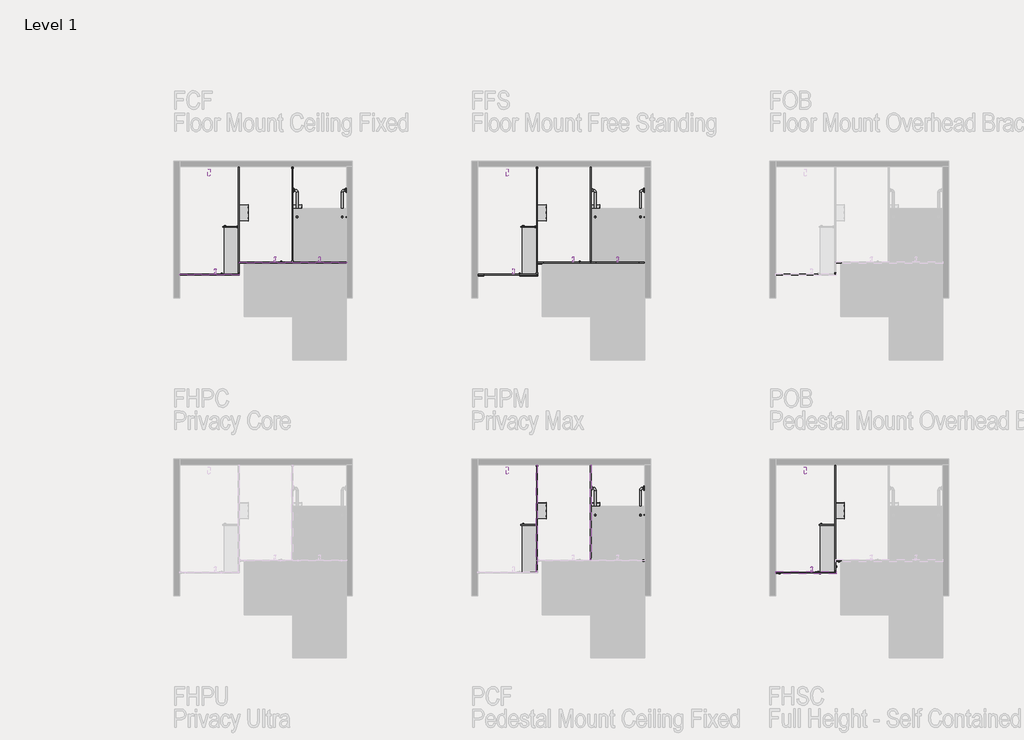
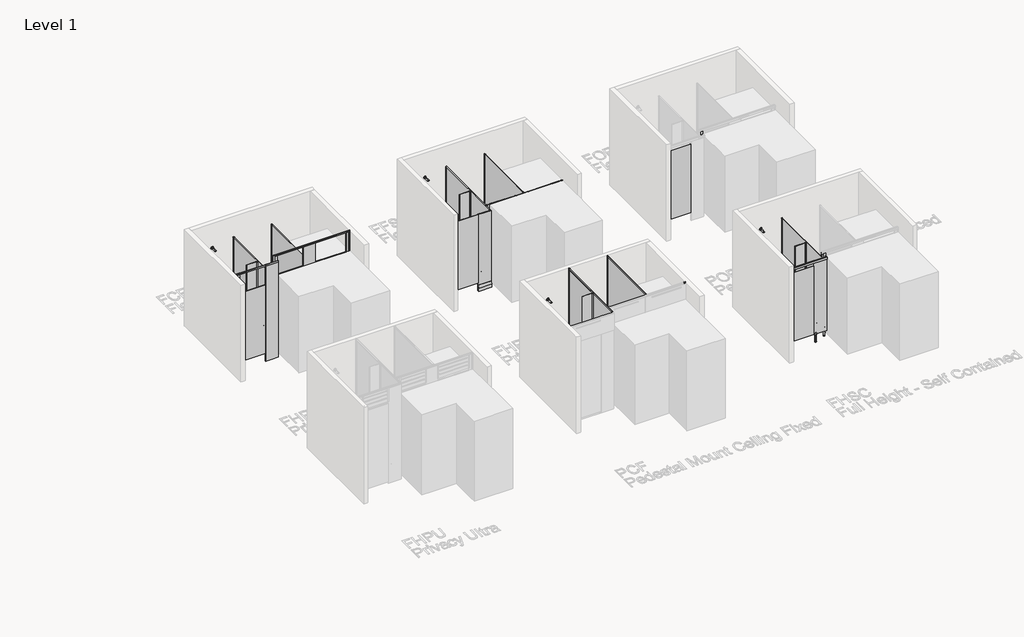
# One storey, part 3 of 21: 109 furniture elements, 13 proxies, 4 flow terminals.
"""IFC4 building model written with IfcOpenShell, lengths in millimetres."""

from ifc_helpers import new_model, si_unit, origin, place, context, project, spatial, transform, mapped, element, save
from components import grab_rail_angled_generic_variable_c761e824, grab_rail_angled_generic_variable_3e2c0b31, toilet_paper_dispenser_single_generic_jumbo_roll_standard_5525cc7b, shower_outlet_generic_cylinder_fixed_standard_5790de0d, furniture_50x50x3_ea_30474b0d, single_jumbo_roll_84fdac57, single_jumbo_roll_e7ba397d, standard_e9757195, standard_a09735d1, standard_17157e73, standard_56c17008, standard_8b35f988, standard_9f86a58c, standard_50133f41, standard_54add324, standard_539b4371, standard_19cf42aa, standard_accb4681, standard_8fe30837, standard_118d20a8, standard_3121d7ea, standard_f6b4b1de, standard_c2cb3ece, standard_90f6d6dc, standard_81af53f7, standard_0994168a, standard_caf870ac, standard_f7e84a1b, standard_d9afaeec, standard_fdf829a3, standard_31cafe8a, standard_3d746f33, standard_4055153e, standard_ba3eb68e, standard_246fb630, standard_a495ee6c, standard_6f46902e, standard_5e636450, standard_dc7732f7, standard_ce56a993, standard_7d118681, standard_d525bc8d, standard_c8a961e5, standard_a54649d3, standard_67804c96, standard_4ddd5521

model = new_model("IFC4")

# Units and contexts
model_context = context("Model", 3, world=origin())
ifc_project = project(units=[si_unit("LENGTHUNIT", "METRE", prefix="MILLI")], contexts=[model_context])

# Site, building, storey
site = spatial("IfcSite", under=ifc_project)
building = spatial("IfcBuilding", under=site)
storey = spatial("IfcBuildingStorey", under=building, Name="Level 1", Elevation=0.0)

# Proxies
placement = place(None, origin())
grab_rail_angled_generic_variable_shape = grab_rail_angled_generic_variable_c761e824(model_context)
element("IfcBuildingElementProxy", 1, Name="Grab Rail-Angled-Generic-Variable : Ambulant-32Ø 450+450@90°", ObjectType="Grab Rail-Angled-Generic-Variable : Ambulant-32Ø 450+450@90°", at=placement, inside=storey, context=model_context, shape_type="MappedRepresentation", body=[
    mapped(grab_rail_angled_generic_variable_shape, transform((-9235.416652, 9438.4657683, 784.0), x_axis=(0.0, 1.0, 0.0), y_axis=(0.0, 0.0, 1.0), z_axis=(1.0, 0.0, 0.0))),
])
element("IfcBuildingElementProxy", 2, Name="Grab Rail-Angled-Generic-Variable : Ambulant-32Ø 450+450@90°", ObjectType="Grab Rail-Angled-Generic-Variable : Ambulant-32Ø 450+450@90°", at=placement, inside=storey, context=model_context, shape_type="MappedRepresentation", body=[
    mapped(grab_rail_angled_generic_variable_shape, transform((-4235.416652, 9438.4657683, 784.0), x_axis=(0.0, 1.0, 0.0), y_axis=(0.0, 0.0, 1.0), z_axis=(1.0, 0.0, 0.0))),
])
element("IfcBuildingElementProxy", 3, Name="Grab Rail-Angled-Generic-Variable : Ambulant-32Ø 450+450@90°", ObjectType="Grab Rail-Angled-Generic-Variable : Ambulant-32Ø 450+450@90°", at=placement, inside=storey, context=model_context, shape_type="MappedRepresentation", body=[
    mapped(grab_rail_angled_generic_variable_shape, transform((-4235.416652, 4438.4657683, 784.0), x_axis=(0.0, 1.0, 0.0), y_axis=(0.0, 0.0, 1.0), z_axis=(1.0, 0.0, 0.0))),
])
grab_rail_angled_generic_variable_2_shape = grab_rail_angled_generic_variable_3e2c0b31(model_context)
element("IfcBuildingElementProxy", 4, Name="Grab Rail-Angled-Generic-Variable : Ambulant-32Ø 450+450@90°", ObjectType="Grab Rail-Angled-Generic-Variable : Ambulant-32Ø 450+450@90°", at=placement, inside=storey, context=model_context, shape_type="MappedRepresentation", body=[
    mapped(grab_rail_angled_generic_variable_2_shape, transform((-8335.416652, 9438.4657683, 784.0), x_axis=(0.0, 1.0, 0.0), y_axis=(0.0, 0.0, -1.0), z_axis=(-1.0, 0.0, 0.0))),
])
element("IfcBuildingElementProxy", 5, Name="Grab Rail-Angled-Generic-Variable : Ambulant-32Ø 450+450@90°", ObjectType="Grab Rail-Angled-Generic-Variable : Ambulant-32Ø 450+450@90°", at=placement, inside=storey, context=model_context, shape_type="MappedRepresentation", body=[
    mapped(grab_rail_angled_generic_variable_2_shape, transform((-3335.416652, 9438.4657683, 784.0), x_axis=(0.0, 1.0, 0.0), y_axis=(0.0, 0.0, -1.0), z_axis=(-1.0, 0.0, 0.0))),
])
element("IfcBuildingElementProxy", 6, Name="Grab Rail-Angled-Generic-Variable : Ambulant-32Ø 450+450@90°", ObjectType="Grab Rail-Angled-Generic-Variable : Ambulant-32Ø 450+450@90°", at=placement, inside=storey, context=model_context, shape_type="MappedRepresentation", body=[
    mapped(grab_rail_angled_generic_variable_2_shape, transform((-3335.416652, 4438.4657683, 784.0), x_axis=(0.0, 1.0, 0.0), y_axis=(0.0, 0.0, -1.0), z_axis=(-1.0, 0.0, 0.0))),
])
toilet_paper_dispenser_single_generic_jumbo_roll_standard_shape = toilet_paper_dispenser_single_generic_jumbo_roll_standard_5525cc7b(model_context)
element("IfcBuildingElementProxy", 7, Name="Toilet Paper Dispenser-Single-Generic-Jumbo Roll : Standard", ObjectType="Toilet Paper Dispenser-Single-Generic-Jumbo Roll : Standard", at=placement, inside=storey, context=model_context, shape_type="MappedRepresentation", body=[
    mapped(toilet_paper_dispenser_single_generic_jumbo_roll_standard_shape, transform((-135.416652, 4284.4657683, 561.5), x_axis=(0.0, 1.0000000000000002, 0.0), y_axis=(0.0, 0.0, 1.0), z_axis=(1.0000000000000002, 0.0, 0.0))),
])
element("IfcBuildingElementProxy", 8, Name="Toilet Paper Dispenser-Single-Generic-Jumbo Roll : Standard", ObjectType="Toilet Paper Dispenser-Single-Generic-Jumbo Roll : Standard", at=placement, inside=storey, context=model_context, shape_type="MappedRepresentation", body=[
    mapped(toilet_paper_dispenser_single_generic_jumbo_roll_standard_shape, transform((-10135.416652, 9284.4657683, 561.5), x_axis=(0.0, 1.0000000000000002, 0.0), y_axis=(0.0, 0.0, 1.0), z_axis=(1.0000000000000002, 0.0, 0.0))),
])
element("IfcBuildingElementProxy", 9, Name="Toilet Paper Dispenser-Single-Generic-Jumbo Roll : Standard", ObjectType="Toilet Paper Dispenser-Single-Generic-Jumbo Roll : Standard", at=placement, inside=storey, context=model_context, shape_type="MappedRepresentation", body=[
    mapped(toilet_paper_dispenser_single_generic_jumbo_roll_standard_shape, transform((-9235.416652, 9284.4657683, 561.5), x_axis=(0.0, 1.0000000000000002, 0.0), y_axis=(0.0, 0.0, 1.0), z_axis=(1.0000000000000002, 0.0, 0.0))),
])
element("IfcBuildingElementProxy", 10, Name="Toilet Paper Dispenser-Single-Generic-Jumbo Roll : Standard", ObjectType="Toilet Paper Dispenser-Single-Generic-Jumbo Roll : Standard", at=placement, inside=storey, context=model_context, shape_type="MappedRepresentation", body=[
    mapped(toilet_paper_dispenser_single_generic_jumbo_roll_standard_shape, transform((-5135.416652, 9284.4657683, 561.5), x_axis=(0.0, 1.0000000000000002, 0.0), y_axis=(0.0, 0.0, 1.0), z_axis=(1.0000000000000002, 0.0, 0.0))),
])
element("IfcBuildingElementProxy", 11, Name="Toilet Paper Dispenser-Single-Generic-Jumbo Roll : Standard", ObjectType="Toilet Paper Dispenser-Single-Generic-Jumbo Roll : Standard", at=placement, inside=storey, context=model_context, shape_type="MappedRepresentation", body=[
    mapped(toilet_paper_dispenser_single_generic_jumbo_roll_standard_shape, transform((-4235.416652, 9284.4657683, 561.5), x_axis=(0.0, 1.0000000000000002, 0.0), y_axis=(0.0, 0.0, 1.0), z_axis=(1.0000000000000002, 0.0, 0.0))),
])
element("IfcBuildingElementProxy", 12, Name="Toilet Paper Dispenser-Single-Generic-Jumbo Roll : Standard", ObjectType="Toilet Paper Dispenser-Single-Generic-Jumbo Roll : Standard", at=placement, inside=storey, context=model_context, shape_type="MappedRepresentation", body=[
    mapped(toilet_paper_dispenser_single_generic_jumbo_roll_standard_shape, transform((-5135.416652, 4284.4657683, 561.5), x_axis=(0.0, 1.0000000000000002, 0.0), y_axis=(0.0, 0.0, 1.0), z_axis=(1.0000000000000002, 0.0, 0.0))),
])
element("IfcBuildingElementProxy", 13, Name="Toilet Paper Dispenser-Single-Generic-Jumbo Roll : Standard", ObjectType="Toilet Paper Dispenser-Single-Generic-Jumbo Roll : Standard", at=placement, inside=storey, context=model_context, shape_type="MappedRepresentation", body=[
    mapped(toilet_paper_dispenser_single_generic_jumbo_roll_standard_shape, transform((-4235.416652, 4284.4657683, 561.5), x_axis=(0.0, 1.0000000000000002, 0.0), y_axis=(0.0, 0.0, 1.0), z_axis=(1.0000000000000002, 0.0, 0.0))),
])

# Flow terminals
shower_outlet_generic_cylinder_fixed_standard_shape = shower_outlet_generic_cylinder_fixed_standard_5790de0d(model_context)
element("IfcFlowTerminal", 14, ObjectType="Shower-Outlet-Generic-Cylinder-Fixed : Standard", at=placement, inside=storey, context=model_context, shape_type="MappedRepresentation", body=[
    mapped(shower_outlet_generic_cylinder_fixed_standard_shape, transform((-10641.916652, 10054.4657683, 1800.0), x_axis=(1.0, 0.0, 0.0), y_axis=(0.0, 0.0, 1.0), z_axis=(0.0, -1.0, 0.0))),
])
element("IfcFlowTerminal", 15, ObjectType="Shower-Outlet-Generic-Cylinder-Fixed : Standard", at=placement, inside=storey, context=model_context, shape_type="MappedRepresentation", body=[
    mapped(shower_outlet_generic_cylinder_fixed_standard_shape, transform((-5641.916652, 10054.4657683, 1800.0), x_axis=(1.0, 0.0, 0.0), y_axis=(0.0, 0.0, 1.0), z_axis=(0.0, -1.0, 0.0))),
])
element("IfcFlowTerminal", 16, ObjectType="Shower-Outlet-Generic-Cylinder-Fixed : Standard", at=placement, inside=storey, context=model_context, shape_type="MappedRepresentation", body=[
    mapped(shower_outlet_generic_cylinder_fixed_standard_shape, transform((-5641.916652, 5054.4657683, 1800.0), x_axis=(1.0, 0.0, 0.0), y_axis=(0.0, 0.0, 1.0), z_axis=(0.0, -1.0, 0.0))),
])
element("IfcFlowTerminal", 17, ObjectType="Shower-Outlet-Generic-Cylinder-Fixed : Standard", at=placement, inside=storey, context=model_context, shape_type="MappedRepresentation", body=[
    mapped(shower_outlet_generic_cylinder_fixed_standard_shape, transform((-641.916652, 5054.4657683, 1800.0), x_axis=(1.0, 0.0, 0.0), y_axis=(0.0, 0.0, 1.0), z_axis=(0.0, -1.0, 0.0))),
])

# Furniture
furniture_50x50x3_ea_shape = furniture_50x50x3_ea_30474b0d(model_context)
element("IfcFurniture", 18, ObjectType="X_Partition-Angle-Duracube-Shower Seat : 50x50x3 EA", at=placement, inside=storey, context=model_context, shape_type="MappedRepresentation", body=[
    mapped(furniture_50x50x3_ea_shape, transform((-10148.416652, 8991.4657683, 462.0), x_axis=(0.0, -1.0, 0.0), y_axis=(0.0, 0.0, 1.0), z_axis=(-1.0, 0.0, 0.0))),
])
element("IfcFurniture", 19, ObjectType="X_Partition-Angle-Duracube-Shower Seat : 50x50x3 EA", at=placement, inside=storey, context=model_context, shape_type="MappedRepresentation", body=[
    mapped(furniture_50x50x3_ea_shape, transform((-10148.416652, 8304.4657683, 462.0), x_axis=(0.0, -1.0, 0.0), y_axis=(0.0, 0.0, 1.0), z_axis=(-1.0, 0.0, 0.0))),
])
element("IfcFurniture", 20, ObjectType="X_Partition-Angle-Duracube-Shower Seat : 50x50x3 EA", at=placement, inside=storey, context=model_context, shape_type="MappedRepresentation", body=[
    mapped(furniture_50x50x3_ea_shape, transform((-5148.416652, 8991.4657683, 462.0), x_axis=(0.0, -1.0, 0.0), y_axis=(0.0, 0.0, 1.0), z_axis=(-1.0, 0.0, 0.0))),
])
element("IfcFurniture", 21, ObjectType="X_Partition-Angle-Duracube-Shower Seat : 50x50x3 EA", at=placement, inside=storey, context=model_context, shape_type="MappedRepresentation", body=[
    mapped(furniture_50x50x3_ea_shape, transform((-5148.416652, 8304.4657683, 462.0), x_axis=(0.0, -1.0, 0.0), y_axis=(0.0, 0.0, 1.0), z_axis=(-1.0, 0.0, 0.0))),
])
element("IfcFurniture", 22, ObjectType="X_Partition-Angle-Duracube-Shower Seat : 50x50x3 EA", at=placement, inside=storey, context=model_context, shape_type="MappedRepresentation", body=[
    mapped(furniture_50x50x3_ea_shape, transform((-148.416652, 3991.4657683, 462.0), x_axis=(0.0, -1.0, 0.0), y_axis=(0.0, 0.0, 1.0), z_axis=(-1.0, 0.0, 0.0))),
])
element("IfcFurniture", 23, ObjectType="X_Partition-Angle-Duracube-Shower Seat : 50x50x3 EA", at=placement, inside=storey, context=model_context, shape_type="MappedRepresentation", body=[
    mapped(furniture_50x50x3_ea_shape, transform((-148.416652, 3304.4657683, 462.0), x_axis=(0.0, -1.0, 0.0), y_axis=(0.0, 0.0, 1.0), z_axis=(-1.0, 0.0, 0.0))),
])
element("IfcFurniture", 24, ObjectType="X_Partition-Angle-Duracube-Shower Seat : 50x50x3 EA", at=placement, inside=storey, context=model_context, shape_type="MappedRepresentation", body=[
    mapped(furniture_50x50x3_ea_shape, transform((-10148.416652, 8647.9657683, 462.0), x_axis=(0.0, -1.0, 0.0), y_axis=(0.0, 0.0, 1.0), z_axis=(-1.0, 0.0, 0.0))),
])
element("IfcFurniture", 25, ObjectType="X_Partition-Angle-Duracube-Shower Seat : 50x50x3 EA", at=placement, inside=storey, context=model_context, shape_type="MappedRepresentation", body=[
    mapped(furniture_50x50x3_ea_shape, transform((-10363.416652, 9041.4657683, 462.0), x_axis=(1.0, 0.0, 0.0), y_axis=(0.0, 0.0, 1.0), z_axis=(0.0, -1.0, 0.0))),
])
element("IfcFurniture", 26, ObjectType="X_Partition-Angle-Duracube-Shower Seat : 50x50x3 EA", at=placement, inside=storey, context=model_context, shape_type="MappedRepresentation", body=[
    mapped(furniture_50x50x3_ea_shape, transform((-10363.416652, 8279.4657683, 487.0), x_axis=(1.0, 0.0, 0.0), y_axis=(0.0, -1.0, 0.0), z_axis=(0.0, 0.0, -1.0))),
])
element("IfcFurniture", 27, ObjectType="X_Partition-Angle-Duracube-Shower Seat : 50x50x3 EA", at=placement, inside=storey, context=model_context, shape_type="MappedRepresentation", body=[
    mapped(furniture_50x50x3_ea_shape, transform((-5148.416652, 8647.9657683, 462.0), x_axis=(0.0, -1.0, 0.0), y_axis=(0.0, 0.0, 1.0), z_axis=(-1.0, 0.0, 0.0))),
])
element("IfcFurniture", 28, ObjectType="X_Partition-Angle-Duracube-Shower Seat : 50x50x3 EA", at=placement, inside=storey, context=model_context, shape_type="MappedRepresentation", body=[
    mapped(furniture_50x50x3_ea_shape, transform((-5363.416652, 9041.4657683, 462.0), x_axis=(1.0, 0.0, 0.0), y_axis=(0.0, 0.0, 1.0), z_axis=(0.0, -1.0, 0.0))),
])
element("IfcFurniture", 29, ObjectType="X_Partition-Angle-Duracube-Shower Seat : 50x50x3 EA", at=placement, inside=storey, context=model_context, shape_type="MappedRepresentation", body=[
    mapped(furniture_50x50x3_ea_shape, transform((-5363.416652, 8279.4657683, 487.0), x_axis=(1.0, 0.0, 0.0), y_axis=(0.0, -1.0, 0.0), z_axis=(0.0, 0.0, -1.0))),
])
element("IfcFurniture", 30, ObjectType="X_Partition-Angle-Duracube-Shower Seat : 50x50x3 EA", at=placement, inside=storey, context=model_context, shape_type="MappedRepresentation", body=[
    mapped(furniture_50x50x3_ea_shape, transform((-5363.416652, 4041.4657683, 462.0), x_axis=(1.0, 0.0, 0.0), y_axis=(0.0, 0.0, 1.0), z_axis=(0.0, -1.0, 0.0))),
])
element("IfcFurniture", 31, ObjectType="X_Partition-Angle-Duracube-Shower Seat : 50x50x3 EA", at=placement, inside=storey, context=model_context, shape_type="MappedRepresentation", body=[
    mapped(furniture_50x50x3_ea_shape, transform((-148.416652, 3647.9657683, 462.0), x_axis=(0.0, -1.0, 0.0), y_axis=(0.0, 0.0, 1.0), z_axis=(-1.0, 0.0, 0.0))),
])
element("IfcFurniture", 32, ObjectType="X_Partition-Angle-Duracube-Shower Seat : 50x50x3 EA", at=placement, inside=storey, context=model_context, shape_type="MappedRepresentation", body=[
    mapped(furniture_50x50x3_ea_shape, transform((-363.416652, 4041.4657683, 462.0), x_axis=(1.0, 0.0, 0.0), y_axis=(0.0, 0.0, 1.0), z_axis=(0.0, -1.0, 0.0))),
])
element("IfcFurniture", 33, ObjectType="X_Partition-Angle-Duracube-Shower Seat : 50x50x3 EA", at=placement, inside=storey, context=model_context, shape_type="MappedRepresentation", body=[
    mapped(furniture_50x50x3_ea_shape, transform((-363.416652, 3279.4657683, 487.0), x_axis=(1.0, 0.0, 0.0), y_axis=(0.0, -1.0, 0.0), z_axis=(0.0, 0.0, -1.0))),
])
single_jumbo_roll_shape = single_jumbo_roll_84fdac57(model_context)
element("IfcFurniture", 34, ObjectType="X_Partition-Compact Laminate-Duracube-Rectangular : Single Jumbo Roll", at=placement, inside=storey, context=model_context, shape_type="MappedRepresentation", body=[
    mapped(single_jumbo_roll_shape, transform((-9248.416652, 9209.7654418, 0.0), x_axis=(0.0, 1.0000000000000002, 0.0), y_axis=(-1.0000000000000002, 0.0, 0.0), z_axis=(0.0, 0.0, 1.0))),
])
element("IfcFurniture", 35, ObjectType="X_Partition-Compact Laminate-Duracube-Rectangular : Single Jumbo Roll", at=placement, inside=storey, context=model_context, shape_type="MappedRepresentation", body=[
    mapped(single_jumbo_roll_shape, transform((-4248.416652, 9209.7654418, 0.0), x_axis=(0.0, 1.0000000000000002, 0.0), y_axis=(-1.0000000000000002, 0.0, 0.0), z_axis=(0.0, 0.0, 1.0))),
])
single_jumbo_roll_2_shape = single_jumbo_roll_e7ba397d(model_context)
element("IfcFurniture", 36, ObjectType="X_Partition-Compact Laminate-Duracube-Rectangular : Single Jumbo Roll", at=placement, inside=storey, context=model_context, shape_type="MappedRepresentation", body=[
    mapped(single_jumbo_roll_2_shape, transform((-4248.416652, 4209.7654418, 0.0), x_axis=(0.0, 1.0000000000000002, 0.0), y_axis=(-1.0000000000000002, 0.0, 0.0), z_axis=(0.0, 0.0, 1.0))),
])
standard_shape = standard_e9757195(model_context)
element("IfcFurniture", 37, ObjectType="X_Partition-Channel-Duracube-Skirting : Standard", at=placement, inside=storey, context=model_context, shape_type="MappedRepresentation", body=[
    mapped(standard_shape, transform((-5131.6169784, 8457.9657683, 0.0), x_axis=(1.0, 0.0, 0.0), y_axis=(0.0, 1.0, 0.0), z_axis=(0.0, 0.0, 1.0))),
])
element("IfcFurniture", 38, ObjectType="X_Partition-Channel-Duracube-Skirting : Standard", at=placement, inside=storey, context=model_context, shape_type="MappedRepresentation", body=[
    mapped(standard_shape, transform((-6131.6169784, 8257.9657683, 0.0), x_axis=(1.0, 0.0, 0.0), y_axis=(0.0, 1.0, 0.0), z_axis=(0.0, 0.0, 1.0))),
])
standard_2_shape = standard_a09735d1(model_context)
element("IfcFurniture", 39, ObjectType="X_Partition-Compact Laminate-Duracube-Shower Seat & Division : Standard", at=placement, inside=storey, context=model_context, shape_type="MappedRepresentation", body=[
    mapped(standard_2_shape, transform((-5327.1169784, 4054.4657683, 0.0), x_axis=(1.0, 0.0, 0.0), y_axis=(0.0, 1.0, 0.0), z_axis=(0.0, 0.0, 1.0))),
])
standard_3_shape = standard_17157e73(model_context)
element("IfcFurniture", 40, ObjectType="X_Partition-Compact Laminate-Duracube-Rectangular : Standard", at=placement, inside=storey, context=model_context, shape_type="MappedRepresentation", body=[
    mapped(standard_3_shape, transform((-10148.416652, 9109.7654418, 0.0), x_axis=(0.0, 1.0000000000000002, 0.0), y_axis=(-1.0000000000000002, 0.0, 0.0), z_axis=(0.0, 0.0, 1.0))),
])
standard_4_shape = standard_56c17008(model_context)
element("IfcFurniture", 41, ObjectType="X_Partition-Compact Laminate-Duracube-Rectangular : Standard", at=placement, inside=storey, context=model_context, shape_type="MappedRepresentation", body=[
    mapped(standard_4_shape, transform((-5129.6169784, 8454.4657683, 0.0), x_axis=(1.0, 0.0, 0.0), y_axis=(0.0, 1.0, 0.0), z_axis=(0.0, 0.0, 1.0))),
])
element("IfcFurniture", 42, ObjectType="X_Partition-Compact Laminate-Duracube-Rectangular : Standard", at=placement, inside=storey, context=model_context, shape_type="MappedRepresentation", body=[
    mapped(standard_4_shape, transform((-6129.6169784, 8254.4657683, 0.0), x_axis=(1.0, 0.0, 0.0), y_axis=(0.0, 1.0, 0.0), z_axis=(0.0, 0.0, 1.0))),
])
element("IfcFurniture", 43, ObjectType="X_Partition-Compact Laminate-Duracube-Rectangular : Standard", at=placement, inside=storey, context=model_context, shape_type="MappedRepresentation", body=[
    mapped(standard_3_shape, transform((-5148.416652, 9109.7654418, 0.0), x_axis=(0.0, 1.0000000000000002, 0.0), y_axis=(-1.0000000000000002, 0.0, 0.0), z_axis=(0.0, 0.0, 1.0))),
])
standard_5_shape = standard_8b35f988(model_context)
element("IfcFurniture", 44, ObjectType="X_Partition-Compact Laminate-Duracube-Rectangular : Standard", at=placement, inside=storey, context=model_context, shape_type="MappedRepresentation", body=[
    mapped(standard_5_shape, transform((-5148.416652, 4109.7654418, 0.0), x_axis=(0.0, 1.0000000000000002, 0.0), y_axis=(-1.0000000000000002, 0.0, 0.0), z_axis=(0.0, 0.0, 1.0))),
])
element("IfcFurniture", 45, ObjectType="X_Partition-Compact Laminate-Duracube-Rectangular : Standard", at=placement, inside=storey, context=model_context, shape_type="MappedRepresentation", body=[
    mapped(standard_3_shape, transform((-148.416652, 4109.7654418, 0.0), x_axis=(0.0, 1.0000000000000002, 0.0), y_axis=(-1.0000000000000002, 0.0, 0.0), z_axis=(0.0, 0.0, 1.0))),
])
standard_6_shape = standard_9f86a58c(model_context)
element("IfcFurniture", 46, ObjectType="X_Partition-Compact Laminate-Duracube-Rectangular : Standard", at=placement, inside=storey, context=model_context, shape_type="MappedRepresentation", body=[
    mapped(standard_6_shape, transform((-10129.6169784, 8454.4657683, 0.0), x_axis=(1.0, 0.0, 0.0), y_axis=(0.0, 1.0, 0.0), z_axis=(0.0, 0.0, 1.0))),
])
element("IfcFurniture", 47, ObjectType="X_Partition-Compact Laminate-Duracube-Rectangular : Standard", at=placement, inside=storey, context=model_context, shape_type="MappedRepresentation", body=[
    mapped(standard_6_shape, transform((-11129.6169784, 8254.4657683, 0.0), x_axis=(1.0, 0.0, 0.0), y_axis=(0.0, 1.0, 0.0), z_axis=(0.0, 0.0, 1.0))),
])
standard_7_shape = standard_50133f41(model_context)
element("IfcFurniture", 48, ObjectType="X_Partition-Compact Laminate-Duracube-Rectangular : Standard", at=placement, inside=storey, context=model_context, shape_type="MappedRepresentation", body=[
    mapped(standard_7_shape, transform((-10327.1169784, 8254.4657683, 0.0), x_axis=(1.0, 0.0, 0.0), y_axis=(0.0, 1.0, 0.0), z_axis=(0.0, 0.0, 1.0))),
])
standard_8_shape = standard_54add324(model_context)
element("IfcFurniture", 49, ObjectType="X_Partition-Compact Laminate-Duracube-Rectangular : Standard", at=placement, inside=storey, context=model_context, shape_type="MappedRepresentation", body=[
    mapped(standard_8_shape, transform((-8425.6169784, 8454.4657683, 0.0), x_axis=(1.0, 0.0, 0.0), y_axis=(0.0, 1.0, 0.0), z_axis=(0.0, 0.0, 1.0))),
])
standard_9_shape = standard_539b4371(model_context)
element("IfcFurniture", 50, ObjectType="X_Partition-Compact Laminate-Duracube-Rectangular : Standard", at=placement, inside=storey, context=model_context, shape_type="MappedRepresentation", body=[
    mapped(standard_9_shape, transform((-9337.6169784, 8454.4657683, 0.0), x_axis=(1.0, 0.0, 0.0), y_axis=(0.0, 1.0, 0.0), z_axis=(0.0, 0.0, 1.0))),
])
standard_10_shape = standard_19cf42aa(model_context)
element("IfcFurniture", 51, ObjectType="X_Partition-Channel-Duracube-End : Standard", at=placement, inside=storey, context=model_context, shape_type="MappedRepresentation", body=[
    mapped(standard_10_shape, transform((-3305.7163255, 8454.4657683, 0.0), x_axis=(-1.0000000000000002, 0.0, 0.0), y_axis=(0.0, -1.0000000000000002, 0.0), z_axis=(0.0, 0.0, 1.0))),
])
standard_11_shape = standard_accb4681(model_context)
element("IfcFurniture", 52, ObjectType="X_Partition-Compact Laminate-Duracube-Rectangular : Standard", at=placement, inside=storey, context=model_context, shape_type="MappedRepresentation", body=[
    mapped(standard_11_shape, transform((-3425.6169784, 8454.4657683, 0.0), x_axis=(1.0, 0.0, 0.0), y_axis=(0.0, 1.0, 0.0), z_axis=(0.0, 0.0, 1.0))),
])
standard_12_shape = standard_8fe30837(model_context)
element("IfcFurniture", 53, ObjectType="X_Partition-Channel-Duracube-Skirting : Standard", at=placement, inside=storey, context=model_context, shape_type="MappedRepresentation", body=[
    mapped(standard_12_shape, transform((-3423.6169784, 8457.9657683, 0.0), x_axis=(1.0, 0.0, 0.0), y_axis=(0.0, 1.0, 0.0), z_axis=(0.0, 0.0, 1.0))),
])
standard_13_shape = standard_118d20a8(model_context)
element("IfcFurniture", 54, ObjectType="X_Partition-Compact Laminate-Duracube-Rectangular : Standard", at=placement, inside=storey, context=model_context, shape_type="MappedRepresentation", body=[
    mapped(standard_13_shape, transform((-4337.6169784, 8454.4657683, 0.0), x_axis=(1.0, 0.0, 0.0), y_axis=(0.0, 1.0, 0.0), z_axis=(0.0, 0.0, 1.0))),
])
standard_14_shape = standard_3121d7ea(model_context)
element("IfcFurniture", 55, ObjectType="X_Partition-Channel-Duracube-Skirting : Standard", at=placement, inside=storey, context=model_context, shape_type="MappedRepresentation", body=[
    mapped(standard_14_shape, transform((-4337.6169784, 8457.9657683, 0.0), x_axis=(1.0, 0.0, 0.0), y_axis=(0.0, 1.0, 0.0), z_axis=(0.0, 0.0, 1.0))),
])
standard_15_shape = standard_f6b4b1de(model_context)
element("IfcFurniture", 56, ObjectType="X_Partition-Compact Laminate-Duracube-Rectangular : Standard", at=placement, inside=storey, context=model_context, shape_type="MappedRepresentation", body=[
    mapped(standard_15_shape, transform((-5327.1169784, 8254.4657683, 0.0), x_axis=(1.0, 0.0, 0.0), y_axis=(0.0, 1.0, 0.0), z_axis=(0.0, 0.0, 1.0))),
])
standard_16_shape = standard_c2cb3ece(model_context)
element("IfcFurniture", 57, ObjectType="X_Partition-Channel-Duracube-Skirting : Standard", at=placement, inside=storey, context=model_context, shape_type="MappedRepresentation", body=[
    mapped(standard_16_shape, transform((-5325.1169784, 8257.9657683, 0.0), x_axis=(1.0, 0.0, 0.0), y_axis=(0.0, 1.0, 0.0), z_axis=(0.0, 0.0, 1.0))),
])
standard_17_shape = standard_90f6d6dc(model_context)
element("IfcFurniture", 58, ObjectType="X_Partition-Channel-Duracube-End : Standard", at=placement, inside=storey, context=model_context, shape_type="MappedRepresentation", body=[
    mapped(standard_17_shape, transform((-1165.1169784, 8254.4657683, 0.0), x_axis=(1.0000000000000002, 0.0, 0.0), y_axis=(0.0, 1.0000000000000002, 0.0), z_axis=(0.0, 0.0, 1.0))),
])
standard_18_shape = standard_81af53f7(model_context)
element("IfcFurniture", 59, ObjectType="X_Partition-Compact Laminate-Duracube-Rectangular : Standard", at=placement, inside=storey, context=model_context, shape_type="MappedRepresentation", body=[
    mapped(standard_18_shape, transform((-129.6169784, 8454.4657683, 0.0), x_axis=(1.0, 0.0, 0.0), y_axis=(0.0, 1.0, 0.0), z_axis=(0.0, 0.0, 1.0))),
])
element("IfcFurniture", 60, ObjectType="X_Partition-Compact Laminate-Duracube-Rectangular : Standard", at=placement, inside=storey, context=model_context, shape_type="MappedRepresentation", body=[
    mapped(standard_18_shape, transform((-1129.6169784, 8254.4657683, 0.0), x_axis=(1.0, 0.0, 0.0), y_axis=(0.0, 1.0, 0.0), z_axis=(0.0, 0.0, 1.0))),
])
standard_19_shape = standard_0994168a(model_context)
element("IfcFurniture", 61, ObjectType="X_Partition-Compact Laminate-Duracube-Rectangular : Standard", at=placement, inside=storey, context=model_context, shape_type="MappedRepresentation", body=[
    mapped(standard_19_shape, transform((-327.1169784, 3254.4657683, 0.0), x_axis=(1.0, 0.0, 0.0), y_axis=(0.0, 1.0, 0.0), z_axis=(0.0, 0.0, 1.0))),
])
standard_20_shape = standard_caf870ac(model_context)
element("IfcFurniture", 62, ObjectType="X_Partition-Channel-Duracube-End : Standard", at=placement, inside=storey, context=model_context, shape_type="MappedRepresentation", body=[
    mapped(standard_20_shape, transform((-1165.1169784, 3254.4657683, 0.0), x_axis=(1.0000000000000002, 0.0, 0.0), y_axis=(0.0, 1.0000000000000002, 0.0), z_axis=(0.0, 0.0, 1.0))),
])
element("IfcFurniture", 63, ObjectType="X_Partition-Channel-Duracube-End : Standard", at=placement, inside=storey, context=model_context, shape_type="MappedRepresentation", body=[
    mapped(standard_20_shape, transform((-165.1169784, 3454.4657683, 0.0), x_axis=(1.0000000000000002, 0.0, 0.0), y_axis=(0.0, 1.0000000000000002, 0.0), z_axis=(0.0, 0.0, 1.0))),
])
standard_21_shape = standard_f7e84a1b(model_context)
element("IfcFurniture", 64, ObjectType="X_Partition-Compact Laminate-Duracube-Rectangular : Standard", at=placement, inside=storey, context=model_context, shape_type="MappedRepresentation", body=[
    mapped(standard_21_shape, transform((-129.6169784, 3454.4657683, 0.0), x_axis=(1.0, 0.0, 0.0), y_axis=(0.0, 1.0, 0.0), z_axis=(0.0, 0.0, 1.0))),
])
element("IfcFurniture", 65, ObjectType="X_Partition-Compact Laminate-Duracube-Rectangular : Standard", at=placement, inside=storey, context=model_context, shape_type="MappedRepresentation", body=[
    mapped(standard_21_shape, transform((-1129.6169784, 3254.4657683, 0.0), x_axis=(1.0, 0.0, 0.0), y_axis=(0.0, 1.0, 0.0), z_axis=(0.0, 0.0, 1.0))),
])
standard_22_shape = standard_d9afaeec(model_context)
element("IfcFurniture", 66, ObjectType="X_Partition-Compact Laminate-Duracube-Door : Standard", at=placement, inside=storey, context=model_context, shape_type="MappedRepresentation", body=[
    mapped(standard_22_shape, transform((-9780.1169784, 8454.4657683, 0.0), x_axis=(1.0, 0.0, 0.0), y_axis=(0.0, 1.0, 0.0), z_axis=(0.0, 0.0, 1.0))),
])
element("IfcFurniture", 67, ObjectType="X_Partition-Compact Laminate-Duracube-Door : Standard", at=placement, inside=storey, context=model_context, shape_type="MappedRepresentation", body=[
    mapped(standard_22_shape, transform((-10780.1169784, 8254.4657683, 0.0), x_axis=(1.0, 0.0, 0.0), y_axis=(0.0, 1.0, 0.0), z_axis=(0.0, 0.0, 1.0))),
])
standard_23_shape = standard_fdf829a3(model_context)
element("IfcFurniture", 68, ObjectType="X_Partition-Compact Laminate-Duracube-Door : Standard", at=placement, inside=storey, context=model_context, shape_type="MappedRepresentation", body=[
    mapped(standard_23_shape, transform((-8832.6169784, 8454.4657683, 0.0), x_axis=(1.0, 0.0, 0.0), y_axis=(0.0, 1.0, 0.0), z_axis=(0.0, 0.0, 1.0))),
])
element("IfcFurniture", 69, ObjectType="X_Partition-Compact Laminate-Duracube-Door : Standard", at=placement, inside=storey, context=model_context, shape_type="MappedRepresentation", body=[
    mapped(standard_22_shape, transform((-4780.1169784, 8454.4657683, 0.0), x_axis=(1.0, 0.0, 0.0), y_axis=(0.0, 1.0, 0.0), z_axis=(0.0, 0.0, 1.0))),
])
element("IfcFurniture", 70, ObjectType="X_Partition-Compact Laminate-Duracube-Door : Standard", at=placement, inside=storey, context=model_context, shape_type="MappedRepresentation", body=[
    mapped(standard_22_shape, transform((-5780.1169784, 8254.4657683, 0.0), x_axis=(1.0, 0.0, 0.0), y_axis=(0.0, 1.0, 0.0), z_axis=(0.0, 0.0, 1.0))),
])
element("IfcFurniture", 71, ObjectType="X_Partition-Compact Laminate-Duracube-Door : Standard", at=placement, inside=storey, context=model_context, shape_type="MappedRepresentation", body=[
    mapped(standard_23_shape, transform((-3832.6169784, 8454.4657683, 0.0), x_axis=(1.0, 0.0, 0.0), y_axis=(0.0, 1.0, 0.0), z_axis=(0.0, 0.0, 1.0))),
])
element("IfcFurniture", 72, ObjectType="X_Partition-Compact Laminate-Duracube-Door : Standard", at=placement, inside=storey, context=model_context, shape_type="MappedRepresentation", body=[
    mapped(standard_22_shape, transform((-780.1169784, 8254.4657683, 0.0), x_axis=(1.0, 0.0, 0.0), y_axis=(0.0, 1.0, 0.0), z_axis=(0.0, 0.0, 1.0))),
])
element("IfcFurniture", 73, ObjectType="X_Partition-Compact Laminate-Duracube-Door : Standard", at=placement, inside=storey, context=model_context, shape_type="MappedRepresentation", body=[
    mapped(standard_22_shape, transform((-780.1169784, 3254.4657683, 0.0), x_axis=(1.0, 0.0, 0.0), y_axis=(0.0, 1.0, 0.0), z_axis=(0.0, 0.0, 1.0))),
])
standard_24_shape = standard_31cafe8a(model_context)
element("IfcFurniture", 74, ObjectType="X_Partition-Robe Hook-Duracube-Door Stop : Standard", at=placement, inside=storey, context=model_context, shape_type="MappedRepresentation", body=[
    mapped(standard_24_shape, transform((-9535.416652, 8454.4657683, 1700.0), x_axis=(-1.0, 0.0, 0.0), y_axis=(0.0, 0.0, 1.0), z_axis=(0.0, 1.0, 0.0))),
])
element("IfcFurniture", 75, ObjectType="X_Partition-Robe Hook-Duracube-Door Stop : Standard", at=placement, inside=storey, context=model_context, shape_type="MappedRepresentation", body=[
    mapped(standard_24_shape, transform((-10535.416652, 8254.4657683, 1700.0), x_axis=(-1.0, 0.0, 0.0), y_axis=(0.0, 0.0, 1.0), z_axis=(0.0, 1.0, 0.0))),
])
element("IfcFurniture", 76, ObjectType="X_Partition-Robe Hook-Duracube-Door Stop : Standard", at=placement, inside=storey, context=model_context, shape_type="MappedRepresentation", body=[
    mapped(standard_24_shape, transform((-4535.416652, 8454.4657683, 1700.0), x_axis=(-1.0, 0.0, 0.0), y_axis=(0.0, 0.0, 1.0), z_axis=(0.0, 1.0, 0.0))),
])
element("IfcFurniture", 77, ObjectType="X_Partition-Robe Hook-Duracube-Door Stop : Standard", at=placement, inside=storey, context=model_context, shape_type="MappedRepresentation", body=[
    mapped(standard_24_shape, transform((-5535.416652, 8254.4657683, 1700.0), x_axis=(-1.0, 0.0, 0.0), y_axis=(0.0, 0.0, 1.0), z_axis=(0.0, 1.0, 0.0))),
])
element("IfcFurniture", 78, ObjectType="X_Partition-Robe Hook-Duracube-Door Stop : Standard", at=placement, inside=storey, context=model_context, shape_type="MappedRepresentation", body=[
    mapped(standard_24_shape, transform((-535.416652, 3254.4657683, 1700.0), x_axis=(-1.0, 0.0, 0.0), y_axis=(0.0, 0.0, 1.0), z_axis=(0.0, 1.0, 0.0))),
])
element("IfcFurniture", 79, ObjectType="X_Partition-Robe Hook-Duracube-Door Stop : Standard", at=placement, inside=storey, context=model_context, shape_type="MappedRepresentation", body=[
    mapped(standard_24_shape, transform((-8787.916652, 8454.4657683, 1300.0), x_axis=(-1.0, 0.0, 0.0), y_axis=(0.0, 0.0, 1.0), z_axis=(0.0, 1.0, 0.0))),
])
element("IfcFurniture", 80, ObjectType="X_Partition-Robe Hook-Duracube-Door Stop : Standard", at=placement, inside=storey, context=model_context, shape_type="MappedRepresentation", body=[
    mapped(standard_24_shape, transform((-3787.916652, 8454.4657683, 1300.0), x_axis=(-1.0, 0.0, 0.0), y_axis=(0.0, 0.0, 1.0), z_axis=(0.0, 1.0, 0.0))),
])
standard_25_shape = standard_3d746f33(model_context)
element("IfcFurniture", 81, ObjectType="X_Partition-Foot-Duracube-Assembly : Standard", at=placement, inside=storey, context=model_context, shape_type="MappedRepresentation", body=[
    mapped(standard_25_shape, transform((-1033.2163255, 3221.4657683, 0.0), x_axis=(-1.0000000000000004, 0.0, 0.0), y_axis=(0.0, -1.0000000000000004, 0.0), z_axis=(0.0, 0.0, 1.0))),
])
element("IfcFurniture", 82, ObjectType="X_Partition-Foot-Duracube-Assembly : Standard", at=placement, inside=storey, context=model_context, shape_type="MappedRepresentation", body=[
    mapped(standard_25_shape, transform((-348.2163255, 3221.4657683, 0.0), x_axis=(-1.0000000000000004, 0.0, 0.0), y_axis=(0.0, -1.0000000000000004, 0.0), z_axis=(0.0, 0.0, 1.0))),
])
element("IfcFurniture", 83, ObjectType="X_Partition-Foot-Duracube-Assembly : Standard", at=placement, inside=storey, context=model_context, shape_type="MappedRepresentation", body=[
    mapped(standard_25_shape, transform((-33.2163255, 3421.4657683, 0.0), x_axis=(-1.0000000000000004, 0.0, 0.0), y_axis=(0.0, -1.0000000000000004, 0.0), z_axis=(0.0, 0.0, 1.0))),
])
element("IfcFurniture", 84, ObjectType="X_Partition-Foot-Duracube-Assembly : Standard", at=placement, inside=storey, context=model_context, shape_type="MappedRepresentation", body=[
    mapped(standard_25_shape, transform((-10417.1169784, 9074.4657683, 0.0), x_axis=(1.0, 0.0, 0.0), y_axis=(0.0, 1.0, 0.0), z_axis=(0.0, 0.0, 1.0))),
])
element("IfcFurniture", 85, ObjectType="X_Partition-Foot-Duracube-Assembly : Standard", at=placement, inside=storey, context=model_context, shape_type="MappedRepresentation", body=[
    mapped(standard_25_shape, transform((-5417.1169784, 9074.4657683, 0.0), x_axis=(1.0, 0.0, 0.0), y_axis=(0.0, 1.0, 0.0), z_axis=(0.0, 0.0, 1.0))),
])
element("IfcFurniture", 86, ObjectType="X_Partition-Foot-Duracube-Assembly : Standard", at=placement, inside=storey, context=model_context, shape_type="MappedRepresentation", body=[
    mapped(standard_25_shape, transform((-5417.1169784, 4074.4657683, 0.0), x_axis=(1.0, 0.0, 0.0), y_axis=(0.0, 1.0, 0.0), z_axis=(0.0, 0.0, 1.0))),
])
element("IfcFurniture", 87, ObjectType="X_Partition-Foot-Duracube-Assembly : Standard", at=placement, inside=storey, context=model_context, shape_type="MappedRepresentation", body=[
    mapped(standard_25_shape, transform((-417.1169784, 4074.4657683, 0.0), x_axis=(1.0, 0.0, 0.0), y_axis=(0.0, 1.0, 0.0), z_axis=(0.0, 0.0, 1.0))),
])
standard_26_shape = standard_4055153e(model_context)
element("IfcFurniture", 88, ObjectType="X_Partition-Channel-Duracube-End : Standard", at=placement, inside=storey, context=model_context, shape_type="MappedRepresentation", body=[
    mapped(standard_26_shape, transform((-5118.7163255, 4041.4657683, 0.0), x_axis=(-1.0000000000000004, 0.0, 0.0), y_axis=(0.0, -1.0000000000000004, 0.0), z_axis=(0.0, 0.0, 1.0))),
])
standard_27_shape = standard_ba3eb68e(model_context)
element("IfcFurniture", 89, ObjectType="X_Partition-Channel-Duracube-End : Standard", at=placement, inside=storey, context=model_context, shape_type="MappedRepresentation", body=[
    mapped(standard_27_shape, transform((-10135.416652, 10084.1660947, 0.0), x_axis=(0.0, -1.0000000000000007, 0.0), y_axis=(1.0000000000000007, 0.0, 0.0), z_axis=(0.0, 0.0, 1.0))),
])
element("IfcFurniture", 90, ObjectType="X_Partition-Channel-Duracube-End : Standard", at=placement, inside=storey, context=model_context, shape_type="MappedRepresentation", body=[
    mapped(standard_27_shape, transform((-10118.7163255, 9041.4657683, 0.0), x_axis=(-1.0000000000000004, 0.0, 0.0), y_axis=(0.0, -1.0000000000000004, 0.0), z_axis=(0.0, 0.0, 1.0))),
])
element("IfcFurniture", 91, ObjectType="X_Partition-Channel-Duracube-End : Standard", at=placement, inside=storey, context=model_context, shape_type="MappedRepresentation", body=[
    mapped(standard_27_shape, transform((-5135.416652, 10084.1660947, 0.0), x_axis=(0.0, -1.0000000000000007, 0.0), y_axis=(1.0000000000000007, 0.0, 0.0), z_axis=(0.0, 0.0, 1.0))),
])
element("IfcFurniture", 92, ObjectType="X_Partition-Channel-Duracube-End : Standard", at=placement, inside=storey, context=model_context, shape_type="MappedRepresentation", body=[
    mapped(standard_27_shape, transform((-5118.7163255, 9041.4657683, 0.0), x_axis=(-1.0000000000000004, 0.0, 0.0), y_axis=(0.0, -1.0000000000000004, 0.0), z_axis=(0.0, 0.0, 1.0))),
])
element("IfcFurniture", 93, ObjectType="X_Partition-Channel-Duracube-End : Standard", at=placement, inside=storey, context=model_context, shape_type="MappedRepresentation", body=[
    mapped(standard_27_shape, transform((-135.416652, 5084.1660947, 0.0), x_axis=(0.0, -1.0000000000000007, 0.0), y_axis=(1.0000000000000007, 0.0, 0.0), z_axis=(0.0, 0.0, 1.0))),
])
element("IfcFurniture", 94, ObjectType="X_Partition-Channel-Duracube-End : Standard", at=placement, inside=storey, context=model_context, shape_type="MappedRepresentation", body=[
    mapped(standard_27_shape, transform((-118.7163255, 4041.4657683, 0.0), x_axis=(-1.0000000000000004, 0.0, 0.0), y_axis=(0.0, -1.0000000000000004, 0.0), z_axis=(0.0, 0.0, 1.0))),
])
element("IfcFurniture", 95, ObjectType="X_Partition-Channel-Duracube-End : Standard", at=placement, inside=storey, context=model_context, shape_type="MappedRepresentation", body=[
    mapped(standard_27_shape, transform((-9235.416652, 10084.1660947, 0.0), x_axis=(0.0, -1.0000000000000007, 0.0), y_axis=(1.0000000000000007, 0.0, 0.0), z_axis=(0.0, 0.0, 1.0))),
])
element("IfcFurniture", 96, ObjectType="X_Partition-Channel-Duracube-End : Standard", at=placement, inside=storey, context=model_context, shape_type="MappedRepresentation", body=[
    mapped(standard_27_shape, transform((-9248.416652, 8424.7654418, 0.0), x_axis=(0.0, 1.0000000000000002, 0.0), y_axis=(-1.0000000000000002, 0.0, 0.0), z_axis=(0.0, 0.0, 1.0))),
])
element("IfcFurniture", 97, ObjectType="X_Partition-Channel-Duracube-End : Standard", at=placement, inside=storey, context=model_context, shape_type="MappedRepresentation", body=[
    mapped(standard_27_shape, transform((-4235.416652, 10084.1660947, 0.0), x_axis=(0.0, -1.0000000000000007, 0.0), y_axis=(1.0000000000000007, 0.0, 0.0), z_axis=(0.0, 0.0, 1.0))),
])
element("IfcFurniture", 98, ObjectType="X_Partition-Channel-Duracube-End : Standard", at=placement, inside=storey, context=model_context, shape_type="MappedRepresentation", body=[
    mapped(standard_27_shape, transform((-4248.416652, 8424.7654418, 0.0), x_axis=(0.0, 1.0000000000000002, 0.0), y_axis=(-1.0000000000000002, 0.0, 0.0), z_axis=(0.0, 0.0, 1.0))),
])
standard_28_shape = standard_246fb630(model_context)
element("IfcFurniture", 99, ObjectType="X_Partition-Channel-Duracube-Ceiling : Standard", at=placement, inside=storey, context=model_context, shape_type="MappedRepresentation", body=[
    mapped(standard_28_shape, transform((-9280.1169784, 8456.4657683, 2374.0), x_axis=(1.0, 0.0, 0.0), y_axis=(0.0, 1.0, 0.0), z_axis=(0.0, 0.0, 1.0))),
])
standard_29_shape = standard_a495ee6c(model_context)
element("IfcFurniture", 100, ObjectType="X_Partition-Channel-Duracube-Corner : Standard", at=placement, inside=storey, context=model_context, shape_type="MappedRepresentation", body=[
    mapped(standard_29_shape, transform((-10110.4663255, 8284.4657683, 0.0), x_axis=(-1.0, 0.0, 0.0), y_axis=(0.0, -1.0, 0.0), z_axis=(0.0, 0.0, 1.0))),
])
element("IfcFurniture", 101, ObjectType="X_Partition-Channel-Duracube-Corner : Standard", at=placement, inside=storey, context=model_context, shape_type="MappedRepresentation", body=[
    mapped(standard_29_shape, transform((-5110.4663255, 8284.4657683, 0.0), x_axis=(-1.0, 0.0, 0.0), y_axis=(0.0, -1.0, 0.0), z_axis=(0.0, 0.0, 1.0))),
])
element("IfcFurniture", 102, ObjectType="X_Partition-Channel-Duracube-Corner : Standard", at=placement, inside=storey, context=model_context, shape_type="MappedRepresentation", body=[
    mapped(standard_29_shape, transform((-110.4663255, 8284.4657683, 0.0), x_axis=(-1.0, 0.0, 0.0), y_axis=(0.0, -1.0, 0.0), z_axis=(0.0, 0.0, 1.0))),
])
element("IfcFurniture", 103, ObjectType="X_Partition-Channel-Duracube-Corner : Standard", at=placement, inside=storey, context=model_context, shape_type="MappedRepresentation", body=[
    mapped(standard_29_shape, transform((-110.4663255, 3284.4657683, 0.0), x_axis=(-1.0, 0.0, 0.0), y_axis=(0.0, -1.0, 0.0), z_axis=(0.0, 0.0, 1.0))),
])
standard_30_shape = standard_6f46902e(model_context)
element("IfcFurniture", 104, ObjectType="X_Partition-Foot-Duracube-Assembly : Standard", at=placement, inside=storey, context=model_context, shape_type="MappedRepresentation", body=[
    mapped(standard_30_shape, transform((-115.416652, 3303.2654418, 0.0), x_axis=(0.0, 1.0000000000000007, 0.0), y_axis=(-1.0000000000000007, 0.0, 0.0), z_axis=(0.0, 0.0, 1.0))),
])
standard_31_shape = standard_5e636450(model_context)
element("IfcFurniture", 105, ObjectType="X_Partition-Channel-Duracube-Ceiling : Standard", at=placement, inside=storey, context=model_context, shape_type="MappedRepresentation", body=[
    mapped(standard_31_shape, transform((-10679.1169784, 8256.4657683, 2374.0), x_axis=(1.0, 0.0, 0.0), y_axis=(0.0, 1.0, 0.0), z_axis=(0.0, 0.0, 1.0))),
])
standard_32_shape = standard_dc7732f7(model_context)
element("IfcFurniture", 106, ObjectType="X_Partition-Channel-Duracube-End : Standard", at=placement, inside=storey, context=model_context, shape_type="MappedRepresentation", body=[
    mapped(standard_32_shape, transform((-5135.416652, 5084.1660947, 0.0), x_axis=(0.0, -1.0000000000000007, 0.0), y_axis=(1.0000000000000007, 0.0, 0.0), z_axis=(0.0, 0.0, 1.0))),
])
element("IfcFurniture", 107, ObjectType="X_Partition-Channel-Duracube-End : Standard", at=placement, inside=storey, context=model_context, shape_type="MappedRepresentation", body=[
    mapped(standard_32_shape, transform((-11165.1169784, 8254.4657683, 0.0), x_axis=(1.0000000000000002, 0.0, 0.0), y_axis=(0.0, 1.0000000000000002, 0.0), z_axis=(0.0, 0.0, 1.0))),
])
element("IfcFurniture", 108, ObjectType="X_Partition-Channel-Duracube-End : Standard", at=placement, inside=storey, context=model_context, shape_type="MappedRepresentation", body=[
    mapped(standard_32_shape, transform((-10165.1169784, 8454.4657683, 0.0), x_axis=(1.0000000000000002, 0.0, 0.0), y_axis=(0.0, 1.0000000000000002, 0.0), z_axis=(0.0, 0.0, 1.0))),
])
element("IfcFurniture", 109, ObjectType="X_Partition-Channel-Duracube-End : Standard", at=placement, inside=storey, context=model_context, shape_type="MappedRepresentation", body=[
    mapped(standard_32_shape, transform((-4235.416652, 5084.1660947, 0.0), x_axis=(0.0, -1.0000000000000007, 0.0), y_axis=(1.0000000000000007, 0.0, 0.0), z_axis=(0.0, 0.0, 1.0))),
])
standard_33_shape = standard_ce56a993(model_context)
element("IfcFurniture", 110, ObjectType="X_Partition-Channel-Duracube-End : Standard", at=placement, inside=storey, context=model_context, shape_type="MappedRepresentation", body=[
    mapped(standard_33_shape, transform((-8305.7163255, 8454.4657683, 0.0), x_axis=(-1.0000000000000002, 0.0, 0.0), y_axis=(0.0, -1.0000000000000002, 0.0), z_axis=(0.0, 0.0, 1.0))),
])
element("IfcFurniture", 111, ObjectType="X_Partition-Channel-Duracube-End : Standard", at=placement, inside=storey, context=model_context, shape_type="MappedRepresentation", body=[
    mapped(standard_33_shape, transform((-3305.7163255, 3454.4657683, 0.0), x_axis=(-1.0000000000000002, 0.0, 0.0), y_axis=(0.0, -1.0000000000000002, 0.0), z_axis=(0.0, 0.0, 1.0))),
])
standard_34_shape = standard_7d118681(model_context)
element("IfcFurniture", 112, ObjectType="X_Partition-Compact Laminate-Duracube-Shower Seat & Division : Standard", at=placement, inside=storey, context=model_context, shape_type="MappedRepresentation", body=[
    mapped(standard_34_shape, transform((-10327.1169784, 9054.4657683, 0.0), x_axis=(1.0, 0.0, 0.0), y_axis=(0.0, 1.0, 0.0), z_axis=(0.0, 0.0, 1.0))),
])
element("IfcFurniture", 113, ObjectType="X_Partition-Compact Laminate-Duracube-Shower Seat & Division : Standard", at=placement, inside=storey, context=model_context, shape_type="MappedRepresentation", body=[
    mapped(standard_34_shape, transform((-5327.1169784, 9054.4657683, 0.0), x_axis=(1.0, 0.0, 0.0), y_axis=(0.0, 1.0, 0.0), z_axis=(0.0, 0.0, 1.0))),
])
standard_35_shape = standard_d525bc8d(model_context)
element("IfcFurniture", 114, ObjectType="X_Partition-Channel-Duracube-End : Standard", at=placement, inside=storey, context=model_context, shape_type="MappedRepresentation", body=[
    mapped(standard_35_shape, transform((-5165.1169784, 8454.4657683, 0.0), x_axis=(1.0000000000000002, 0.0, 0.0), y_axis=(0.0, 1.0000000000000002, 0.0), z_axis=(0.0, 0.0, 1.0))),
])
element("IfcFurniture", 115, ObjectType="X_Partition-Channel-Duracube-End : Standard", at=placement, inside=storey, context=model_context, shape_type="MappedRepresentation", body=[
    mapped(standard_35_shape, transform((-6165.1169784, 8254.4657683, 0.0), x_axis=(1.0000000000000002, 0.0, 0.0), y_axis=(0.0, 1.0000000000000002, 0.0), z_axis=(0.0, 0.0, 1.0))),
])
standard_36_shape = standard_c8a961e5(model_context)
element("IfcFurniture", 116, ObjectType="X_Partition-Channel-Duracube-Head : Standard", at=placement, inside=storey, context=model_context, shape_type="MappedRepresentation", body=[
    mapped(standard_36_shape, transform((-673.3669784, 3267.9657683, 1980.0), x_axis=(1.0, 0.0, 0.0), y_axis=(0.0, 1.0, 0.0), z_axis=(0.0, 0.0, 1.0))),
])
element("IfcFurniture", 117, ObjectType="X_Partition-Compact Laminate-Duracube-Shower Seat & Division : Standard", at=placement, inside=storey, context=model_context, shape_type="MappedRepresentation", body=[
    mapped(standard_34_shape, transform((-327.1169784, 4054.4657683, 0.0), x_axis=(1.0, 0.0, 0.0), y_axis=(0.0, 1.0, 0.0), z_axis=(0.0, 0.0, 1.0))),
])
standard_37_shape = standard_a54649d3(model_context)
element("IfcFurniture", 118, ObjectType="X_Partition-Channel-Duracube-Ceiling : Standard", at=placement, inside=storey, context=model_context, shape_type="MappedRepresentation", body=[
    mapped(standard_37_shape, transform((-5150.416652, 4109.7654418, 2374.0), x_axis=(0.0, 1.0000000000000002, 0.0), y_axis=(-1.0000000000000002, 0.0, 0.0), z_axis=(0.0, 0.0, 1.0))),
])
standard_38_shape = standard_67804c96(model_context)
element("IfcFurniture", 119, ObjectType="X_Partition-Channel-Duracube-Ceiling : Standard", at=placement, inside=storey, context=model_context, shape_type="MappedRepresentation", body=[
    mapped(standard_38_shape, transform((-4250.416652, 4209.7654418, 2374.0), x_axis=(0.0, 1.0000000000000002, 0.0), y_axis=(-1.0000000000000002, 0.0, 0.0), z_axis=(0.0, 0.0, 1.0))),
])
standard_39_shape = standard_4ddd5521(model_context)
element("IfcFurniture", 120, ObjectType="X_Partition-Bumper-Duracube-Concealed Fix : Standard", at=placement, inside=storey, context=model_context, shape_type="MappedRepresentation", body=[
    mapped(standard_39_shape, transform((-9445.916652, 8454.4657683, 920.0), x_axis=(-1.0, 0.0, 0.0), y_axis=(0.0, 0.0, 1.0), z_axis=(0.0, 1.0, 0.0))),
])
element("IfcFurniture", 121, ObjectType="X_Partition-Bumper-Duracube-Concealed Fix : Standard", at=placement, inside=storey, context=model_context, shape_type="MappedRepresentation", body=[
    mapped(standard_39_shape, transform((-10445.916652, 8254.4657683, 920.0), x_axis=(-1.0, 0.0, 0.0), y_axis=(0.0, 0.0, 1.0), z_axis=(0.0, 1.0, 0.0))),
])
element("IfcFurniture", 122, ObjectType="X_Partition-Bumper-Duracube-Concealed Fix : Standard", at=placement, inside=storey, context=model_context, shape_type="MappedRepresentation", body=[
    mapped(standard_39_shape, transform((-5445.916652, 8254.4657683, 920.0), x_axis=(-1.0, 0.0, 0.0), y_axis=(0.0, 0.0, 1.0), z_axis=(0.0, 1.0, 0.0))),
])
element("IfcFurniture", 123, ObjectType="X_Partition-Bumper-Duracube-Concealed Fix : Standard", at=placement, inside=storey, context=model_context, shape_type="MappedRepresentation", body=[
    mapped(standard_39_shape, transform((-445.916652, 3254.4657683, 920.0), x_axis=(-1.0, 0.0, 0.0), y_axis=(0.0, 0.0, 1.0), z_axis=(0.0, 1.0, 0.0))),
])
element("IfcFurniture", 124, ObjectType="X_Partition-Bumper-Duracube-Concealed Fix : Standard", at=placement, inside=storey, context=model_context, shape_type="MappedRepresentation", body=[
    mapped(standard_39_shape, transform((-9139.916652, 8441.4657683, 920.0), x_axis=(1.0, 0.0, 0.0), y_axis=(0.0, 0.0, 1.0), z_axis=(0.0, -1.0, 0.0))),
])
element("IfcFurniture", 125, ObjectType="X_Partition-Bumper-Duracube-Concealed Fix : Standard", at=placement, inside=storey, context=model_context, shape_type="MappedRepresentation", body=[
    mapped(standard_39_shape, transform((-4445.916652, 8454.4657683, 920.0), x_axis=(-1.0, 0.0, 0.0), y_axis=(0.0, 0.0, 1.0), z_axis=(0.0, 1.0, 0.0))),
])
element("IfcFurniture", 126, ObjectType="X_Partition-Bumper-Duracube-Concealed Fix : Standard", at=placement, inside=storey, context=model_context, shape_type="MappedRepresentation", body=[
    mapped(standard_39_shape, transform((-4139.916652, 8441.4657683, 920.0), x_axis=(1.0, 0.0, 0.0), y_axis=(0.0, 0.0, 1.0), z_axis=(0.0, -1.0, 0.0))),
])

save(model, "model.ifc")
